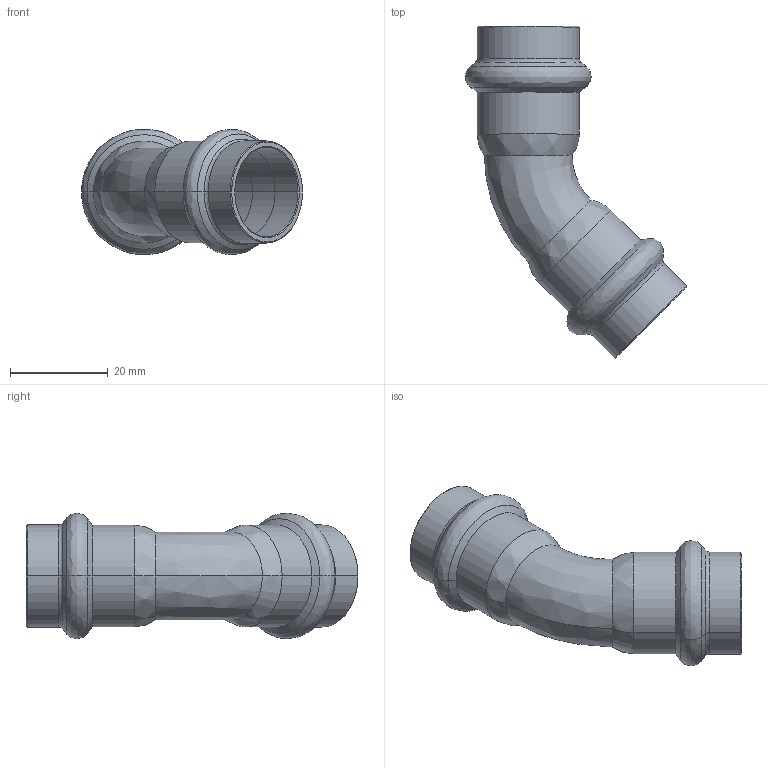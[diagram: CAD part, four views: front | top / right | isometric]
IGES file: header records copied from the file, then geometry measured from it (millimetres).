
Start section: Elysium IGES Interface
Global section: file name: C:\3d modellen sudo\C-Pr VP\SP8041V\8041VW18.igs; native system: CoCreate Modeling 17.00A  17-Jun-2010; preprocessor: CoCreate IGES_3D V2.2; author: Unknown; organization: Unknown; date: 20130129.141834; units: millimetre
Bounding box: 45.23 x 67.93 x 25.68 mm (x, y, z)
Volume: 2282.7 mm3; surface area: 10486.8 mm2
Topology: 1 solids, 3 shells, 80 faces, 156 edges, 84 vertices
Faces by surface type: bspline 80
